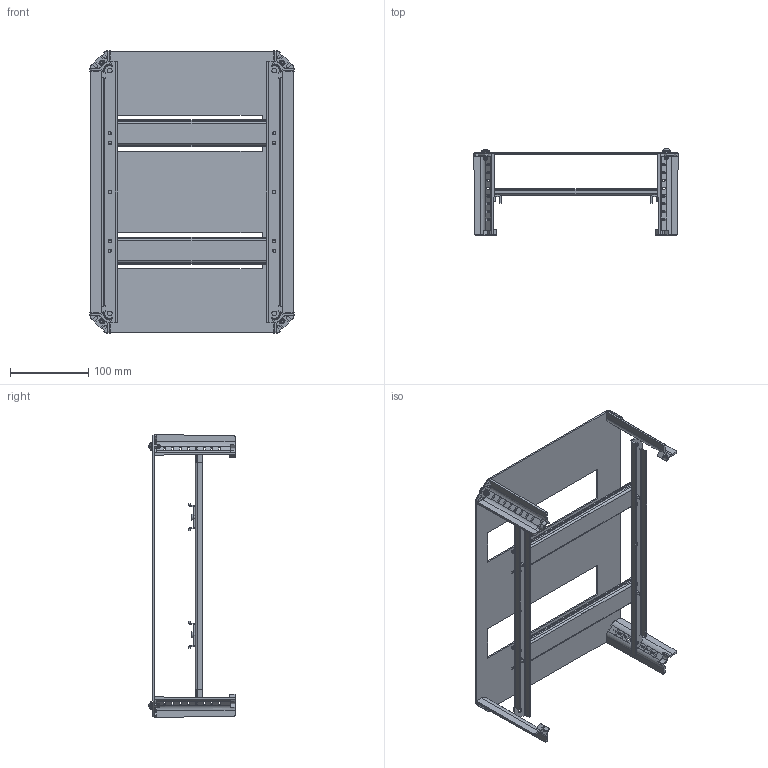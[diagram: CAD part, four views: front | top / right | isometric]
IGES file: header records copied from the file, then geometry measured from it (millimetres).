
Start section: SolidWorks IGES file using analytic representation for surfaces
Global section: file name: \\Fiboxads1\cad2\3DRAW\EKI\3Dcam\NewCabinet\Solidpart\DRS ARCA 403015.IGS; native system: SolidWorks 2013; preprocessor: SolidWorks 2013; author: KennethW; date: 131125.143409; units: millimetre
Bounding box: 260.84 x 109.94 x 360.84 mm (x, y, z)
Surface area: 283626.2 mm2 (no closed solid volume)
Topology: 0 solids, 0 shells, 1436 faces, 16476 edges, 16476 vertices
Faces by surface type: bspline 1042, revolution 394
